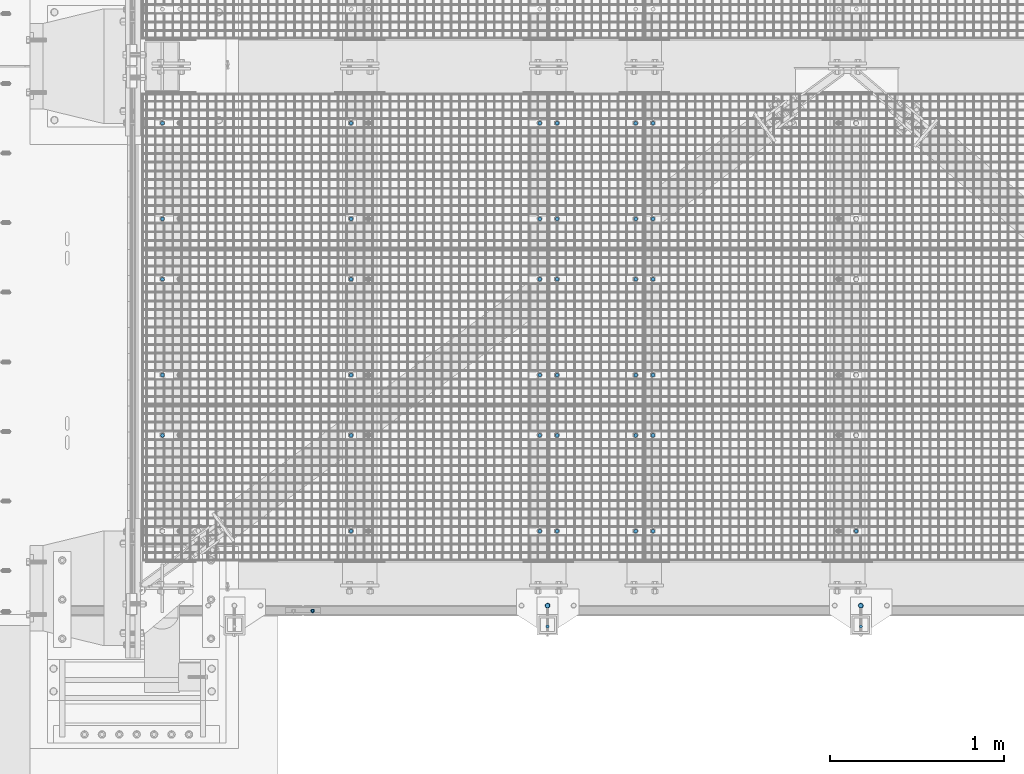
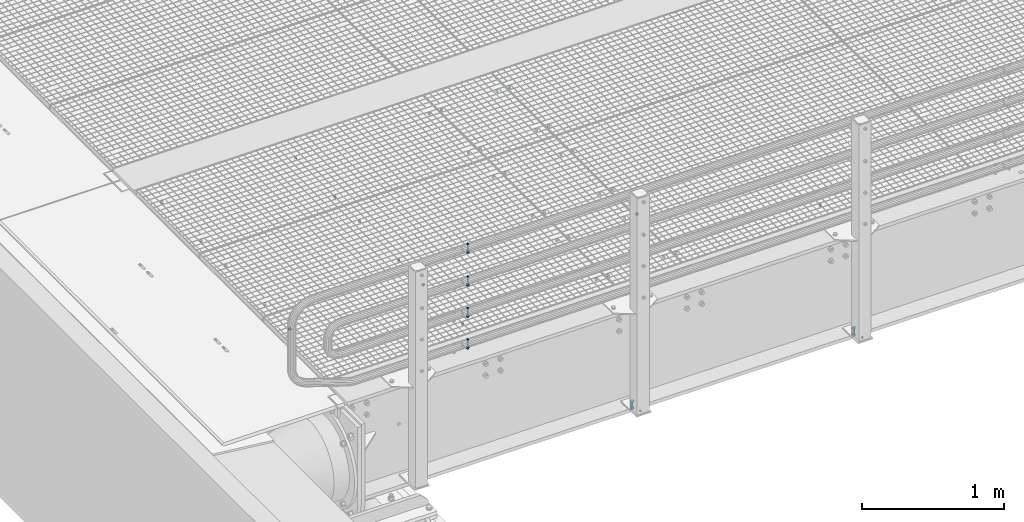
# One storey, part 62 of 1530: 44 mechanical fasteners.
"""IFC2X3 building model written with IfcOpenShell, lengths in millimetres."""

from ifc_helpers import new_model, si_unit, frame, origin_with_axes, place, context, subcontext, project, spatial, faceted_brep, source, transform, mapped, material, type_object, element, save


model = new_model("IFC2X3")

# Units and contexts
model_context = context("Model", 3, precision=1e-05, world=origin_with_axes())
body_context = subcontext(model_context, "Body", "Model", "MODEL_VIEW")
ifc_project = project(units=[si_unit("LENGTHUNIT", "METRE", prefix="MILLI"), si_unit("AREAUNIT", "SQUARE_METRE"), si_unit("VOLUMEUNIT", "CUBIC_METRE"), si_unit("MASSUNIT", "GRAM", prefix="KILO"), si_unit("TIMEUNIT", "SECOND"), si_unit("PLANEANGLEUNIT", "RADIAN"), si_unit("SOLIDANGLEUNIT", "STERADIAN"), si_unit("THERMODYNAMICTEMPERATUREUNIT", "DEGREE_CELSIUS"), si_unit("LUMINOUSINTENSITYUNIT", "LUMEN")], contexts=[model_context])

# Site, building, storey
site_placement = place(None, origin_with_axes())
site = spatial("IfcSite", under=ifc_project, at=site_placement, Name="Brattvåg", CompositionType="ELEMENT")
building_placement = place(site_placement, origin_with_axes())
building = spatial("IfcBuilding", under=site, at=building_placement, Name="Undefined", CompositionType="ELEMENT")
storey_placement = place(building_placement, origin_with_axes())
storey = spatial("IfcBuildingStorey", under=building, at=storey_placement, Name="Undefined", CompositionType="ELEMENT", Elevation=0.0)

# Mechanical fasteners
ifc_material = material(Name="8")
mechanical_fastener_type = type_object("IfcMechanicalFastenerType", Name="Bolt assembly")
shared_shape_1 = source(origin_with_axes(), body_context, "Body", "Brep", [
    faceted_brep([(11.0, -4.99999999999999, 0.0), (9.52627944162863, -4.99999999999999, 5.50000000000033), (5.49999999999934, -4.99999999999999, 9.5262794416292), (-1.13996957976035e-12, -4.99999999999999, 11.0), (-5.50000000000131, -4.99999999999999, 9.52627944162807), (-9.52627944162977, -4.99999999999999, 5.49999999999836), (-11.0, -4.99999999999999, -2.27993915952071e-12), (-9.5262794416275, -4.99999999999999, -5.5000000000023), (-5.49999999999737, -4.99999999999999, -9.52627944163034), (3.40769628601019e-12, -4.99999999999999, -11.0), (5.50000000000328, -4.99999999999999, -9.52627944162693), (9.52627944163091, -4.99999999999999, -5.49999999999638), (9.52627944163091, 10.1, -5.49999999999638), (5.50000000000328, 10.1, -9.52627944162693), (3.40769628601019e-12, 10.1, -11.0), (-5.49999999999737, 10.1, -9.52627944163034), (-9.5262794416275, 10.1, -5.5000000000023), (-11.0, 10.1, -2.27993915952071e-12), (-9.52627944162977, 10.1, 5.49999999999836), (-5.50000000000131, 10.1, 9.52627944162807), (-1.13996957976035e-12, 10.1, 11.0), (5.49999999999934, 10.1, 9.5262794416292), (9.52627944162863, 10.1, 5.50000000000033), (11.0, 10.1, 0.0)], [[[0, 1, 2, 3, 4, 5, 6, 7, 8, 9, 10, 11]], [[12, 13, 14, 15, 16, 17, 18, 19, 20, 21, 22, 23]], [[0, 23, 22, 1]], [[1, 22, 21, 2]], [[2, 21, 20, 3]], [[3, 20, 19, 4]], [[4, 19, 18, 5]], [[5, 18, 17, 6]], [[6, 17, 16, 7]], [[7, 16, 15, 8]], [[8, 15, 14, 9]], [[9, 14, 13, 10]], [[10, 13, 12, 11]], [[11, 12, 23, 0]]]),
])
for number, where, z_axis, x_axis, name in (
    (1, (2856.01522064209, 2121.91931152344, -35.0), (0.0, -1.0, 0.0), (-1.0, 1.99999855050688e-09, 0.0), "Bolt assembly"),
    (2, (2856.01522064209, 2671.99411010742, -35.0), (0.0, -1.0, 0.0), (-1.0, 1.99999855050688e-09, 0.0), "Bolt assembly"),
    (3, (2405.00477935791, 2121.91931152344, -35.0), (0.0, 1.0, 0.0), (1.0, 0.0, 0.0), "Bolt assembly"),
    (4, (2405.00477935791, 2671.99411010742, -35.0), (0.0, 1.0, 0.0), (1.0, 0.0, 0.0), "Bolt assembly"),
    (5, (137.004779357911, 2121.91931152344, -35.0), (0.0, 1.0, 0.0), (1.0, 0.0, 0.0), "Bolt assembly"),
    (6, (137.004779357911, 2671.99411010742, -35.0), (0.0, 1.0, 0.0), (1.0, 0.0, 0.0), "Bolt assembly"),
    (7, (2305.01487731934, 2671.99411010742, -35.0), (0.0, -1.0, 0.0), (-1.0, 1.99999855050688e-09, 0.0), "Bolt assembly"),
    (8, (2305.01487731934, 2121.9204864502, -35.0), (0.0, -1.0, 0.0), (-1.0, 1.99999855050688e-09, 0.0), "Bolt assembly"),
    (9, (1220.93456069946, 2671.99565124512, -35.0), (0.0, -1.0, 0.0), (-1.0, 1.99999855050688e-09, 0.0), "Bolt assembly"),
    (10, (1220.93192543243, 2121.99, -35.0), (0.0, -1.0, 0.0), (-1.0, 1.99999855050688e-09, 0.0), "Bolt assembly"),
    (11, (2856.01522064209, 1224.91931152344, -35.0), (0.0, -1.0, 0.0), (-1.0, 1.99999855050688e-09, 0.0), "Bolt assembly"),
    (12, (2856.01522064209, 1774.99411010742, -35.0), (0.0, -1.0, 0.0), (-1.0, 1.99999855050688e-09, 0.0), "Bolt assembly"),
    (13, (2405.00477935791, 1224.91931152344, -35.0), (0.0, 1.0, 0.0), (1.0, 0.0, 0.0), "Bolt assembly"),
    (14, (2405.00477935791, 1774.99411010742, -35.0), (0.0, 1.0, 0.0), (1.0, 0.0, 0.0), "Bolt assembly"),
    (15, (137.004779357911, 1224.91931152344, -35.0), (0.0, 1.0, 0.0), (1.0, 0.0, 0.0), "Bolt assembly"),
    (16, (137.004779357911, 1774.99411010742, -35.0), (0.0, 1.0, 0.0), (1.0, 0.0, 0.0), "Bolt assembly"),
    (17, (2305.01487731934, 1774.99411010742, -35.0), (0.0, -1.0, 0.0), (-1.0, 1.99999855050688e-09, 0.0), "Bolt assembly"),
    (18, (2305.01487731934, 1224.9204864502, -35.0), (0.0, -1.0, 0.0), (-1.0, 1.99999855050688e-09, 0.0), "Bolt assembly"),
    (19, (1220.93456069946, 1774.99565124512, -35.0), (0.0, -1.0, 0.0), (-1.0, 1.99999855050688e-09, 0.0), "Bolt assembly"),
    (20, (1220.93192543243, 1224.99, -35.0), (0.0, -1.0, 0.0), (-1.0, 1.99999855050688e-09, 0.0), "Bolt assembly"),
    (21, (2856.01522064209, 327.919311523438, -35.0), (0.0, -1.0, 0.0), (-1.0, 1.99999855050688e-09, 0.0), "Bolt assembly"),
    (22, (2856.01522064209, 877.994110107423, -35.0), (0.0, -1.0, 0.0), (-1.0, 1.99999855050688e-09, 0.0), "Bolt assembly"),
    (23, (2405.00477935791, 327.919311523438, -35.0), (0.0, 1.0, 0.0), (1.0, 0.0, 0.0), "Bolt assembly"),
    (24, (2405.00477935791, 877.994110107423, -35.0), (0.0, 1.0, 0.0), (1.0, 0.0, 0.0), "Bolt assembly"),
    (25, (137.004779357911, 877.994110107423, -35.0), (0.0, 1.0, 0.0), (1.0, 0.0, 0.0), "Bolt assembly"),
    (26, (2305.01487731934, 877.994110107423, -35.0), (0.0, -1.0, 0.0), (-1.0, 1.99999855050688e-09, 0.0), "Bolt assembly"),
    (27, (2305.01487731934, 327.920486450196, -35.0), (0.0, -1.0, 0.0), (-1.0, 1.99999855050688e-09, 0.0), "Bolt assembly"),
    (28, (1220.93456069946, 877.995651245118, -35.0), (0.0, -1.0, 0.0), (-1.0, 1.99999855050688e-09, 0.0), "Bolt assembly"),
    (29, (1220.93192543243, 327.99, -35.0), (0.0, -1.0, 0.0), (-1.0, 1.99999855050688e-09, 0.0), "Bolt assembly"),
    (30, (2956.00477935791, 2121.98931152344, -35.0), (0.0, 1.0, 0.0), (1.0, 0.0, 0.0), "Bolt assembly"),
    (31, (2956.00477935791, 2671.99411010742, -35.0), (0.0, 1.0, 0.0), (1.0, 0.0, 0.0), "Bolt assembly"),
    (32, (2956.00477935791, 1224.98931152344, -35.0), (0.0, 1.0, 0.0), (1.0, 0.0, 0.0), "Bolt assembly"),
    (33, (2956.00477935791, 1774.99411010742, -35.0), (0.0, 1.0, 0.0), (1.0, 0.0, 0.0), "Bolt assembly"),
    (34, (2956.00477935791, 327.989311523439, -35.0), (0.0, 1.0, 0.0), (1.0, 0.0, 0.0), "Bolt assembly"),
    (35, (2956.00477935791, 877.994110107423, -35.0), (0.0, 1.0, 0.0), (1.0, 0.0, 0.0), "Bolt assembly"),
    (36, (4124.01192543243, 327.99, -35.0), (0.0, -1.0, 0.0), (-1.0, 1.99999855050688e-09, 0.0), "Bolt assembly"),
):
    element("IfcMechanicalFastener", number, at=place(storey_placement, frame(where, z_axis=z_axis, x_axis=x_axis)), inside=storey, type_object=mechanical_fastener_type, material=ifc_material, Name=name, NominalDiameter=20.0, NominalLength=15.0, context=body_context, shape_type="MappedRepresentation", body=[
        mapped(shared_shape_1, transform((0.0, 0.0, 0.0))),
    ])
shared_shape_2 = source(origin_with_axes(), body_context, "Body", "Brep", [
    faceted_brep([(9.0, -0.000108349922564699, 0.0), (7.79422863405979, -0.000108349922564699, 4.50000000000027), (4.49999999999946, -0.000108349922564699, 7.79422863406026), (-9.3270238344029e-13, -0.000108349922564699, 9.0), (-4.50000000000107, -0.000108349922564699, 7.79422863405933), (-7.79422863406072, -0.000108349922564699, 4.49999999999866), (-9.0, -0.000108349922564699, -1.86540476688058e-12), (-7.79422863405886, -0.000108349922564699, -4.50000000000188), (-4.49999999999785, -0.000108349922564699, -7.79422863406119), (2.78811514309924e-12, -0.000108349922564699, -9.0), (4.50000000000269, -0.000108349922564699, -7.7942286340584), (7.79422863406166, -0.000108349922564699, -4.49999999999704), (7.79422863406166, 10.0998916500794, -4.49999999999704), (4.50000000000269, 10.0998916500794, -7.7942286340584), (2.78811514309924e-12, 10.0998916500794, -9.0), (-4.49999999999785, 10.0998916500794, -7.79422863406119), (-7.79422863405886, 10.0998916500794, -4.50000000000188), (-9.0, 10.0998916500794, -1.86540476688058e-12), (-7.79422863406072, 10.0998916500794, 4.49999999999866), (-4.50000000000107, 10.0998916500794, 7.79422863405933), (-9.3270238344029e-13, 10.0998916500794, 9.0), (4.49999999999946, 10.0998916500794, 7.79422863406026), (7.79422863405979, 10.0998916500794, 4.50000000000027), (9.0, 10.0998916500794, 0.0)], [[[0, 1, 2, 3, 4, 5, 6, 7, 8, 9, 10, 11]], [[12, 13, 14, 15, 16, 17, 18, 19, 20, 21, 22, 23]], [[0, 23, 22, 1]], [[1, 22, 21, 2]], [[2, 21, 20, 3]], [[3, 20, 19, 4]], [[4, 19, 18, 5]], [[5, 18, 17, 6]], [[6, 17, 16, 7]], [[7, 16, 15, 8]], [[8, 15, 14, 9]], [[9, 14, 13, 10]], [[10, 13, 12, 11]], [[11, 12, 23, 0]]]),
])
for number, where, z_axis, x_axis, name in (
    (37, (4150.00016021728, -219.999950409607, -845.000278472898), (-1.0, 1.99999855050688e-09, 0.0), (0.0, 0.999999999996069, 2.80400000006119e-06), "Bolt assembly"),
    (38, (2350.00016021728, -219.999950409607, -845.000278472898), (-1.0, 1.99999855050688e-09, 0.0), (0.0, 0.999999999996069, 2.80400000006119e-06), "Bolt assembly"),
):
    element("IfcMechanicalFastener", number, at=place(storey_placement, frame(where, z_axis=z_axis, x_axis=x_axis)), inside=storey, type_object=mechanical_fastener_type, material=ifc_material, Name=name, NominalDiameter=16.0, NominalLength=10.0001087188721, context=body_context, shape_type="MappedRepresentation", body=[
        mapped(shared_shape_2, transform((0.0, 0.0, 0.0))),
    ])
shared_shape_3 = source(origin_with_axes(), body_context, "Body", "Brep", [
    faceted_brep([(6.49435320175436, -7.50000000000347, 0.0), (4.59220118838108, -7.50000000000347, 4.59220118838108), (3.97664443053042e-16, -7.50000000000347, 6.49435320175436), (-4.59220118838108, -7.50000000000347, 4.59220118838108), (-6.49435320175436, -7.50000000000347, 7.95328886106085e-16), (-4.59220118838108, -7.50000000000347, -4.59220118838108), (-1.19299332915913e-15, -7.50000000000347, -6.49435320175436), (4.59220118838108, -7.50000000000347, -4.59220118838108), (7.34846922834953, -3.46744855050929e-12, -7.34846922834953), (-1.90903542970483e-15, -3.46744855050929e-12, -10.3923048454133), (-7.34846922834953, -3.46744855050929e-12, -7.34846922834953), (-10.3923048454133, 3.46808519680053e-07, 1.27269028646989e-15), (-7.34846922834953, -3.46744855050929e-12, 7.34846922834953), (6.36345143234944e-16, -3.46744855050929e-12, 10.3923048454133), (7.34846922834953, -3.46744855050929e-12, 7.34846922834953), (10.3923048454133, 3.46808519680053e-07, 0.0), (6.0, 3.46808519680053e-07, 0.0), (5.19615242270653, 3.46808519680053e-07, 3.00000000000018), (2.99999999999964, 3.46808519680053e-07, 5.19615242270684), (-6.21801588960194e-13, 3.46808519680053e-07, 6.0), (-3.00000000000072, 3.46808519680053e-07, 5.19615242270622), (-5.19615242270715, 3.46808519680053e-07, 2.9999999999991), (-6.0, 3.46808519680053e-07, -1.24360317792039e-12), (-5.19615242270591, 3.46808519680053e-07, -3.00000000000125), (-2.99999999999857, 3.46808519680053e-07, -5.19615242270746), (1.85874342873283e-12, 3.46808519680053e-07, -6.0), (3.00000000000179, 3.46808519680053e-07, -5.1961524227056), (5.19615242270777, 3.46808519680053e-07, -2.99999999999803), (5.19615242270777, 79.9999999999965, -2.99999999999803), (3.00000000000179, 79.9999999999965, -5.1961524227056), (1.85874342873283e-12, 79.9999999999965, -6.0), (-2.99999999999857, 79.9999999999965, -5.19615242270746), (-5.19615242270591, 79.9999999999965, -3.00000000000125), (-6.0, 79.9999999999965, -1.24360317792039e-12), (-5.19615242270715, 79.9999999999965, 2.9999999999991), (-3.00000000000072, 79.9999999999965, 5.19615242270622), (-6.21801588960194e-13, 79.9999999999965, 6.0), (2.99999999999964, 79.9999999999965, 5.19615242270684), (5.19615242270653, 79.9999999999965, 3.00000000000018), (6.0, 79.9999999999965, 0.0), (12.0, 60.2988956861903, 0.0), (10.3923048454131, 60.2988956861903, 6.00000000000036), (5.99999999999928, 60.2988956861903, 10.3923048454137), (-1.24360317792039e-12, 60.2988956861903, 12.0), (-6.00000000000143, 60.2988956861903, 10.3923048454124), (-10.3923048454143, 60.2988956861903, 5.99999999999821), (-12.0, 60.2988956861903, -2.48720635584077e-12), (-10.3923048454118, 60.2988956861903, -6.00000000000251), (-5.99999999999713, 60.2988956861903, -10.3923048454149), (3.71748685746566e-12, 60.2988956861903, -12.0), (6.00000000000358, 60.2988956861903, -10.3923048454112), (10.3923048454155, 60.2988956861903, -5.99999999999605), (10.3923048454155, 62.7988956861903, -5.99999999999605), (6.00000000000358, 62.7988956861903, -10.3923048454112), (3.71748685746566e-12, 62.7988956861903, -12.0), (-5.99999999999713, 62.7988956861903, -10.3923048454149), (-10.3923048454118, 62.7988956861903, -6.00000000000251), (-12.0, 62.7988956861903, -2.48720635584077e-12), (-10.3923048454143, 62.7988956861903, 5.99999999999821), (-6.00000000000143, 62.7988956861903, 10.3923048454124), (-1.24360317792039e-12, 62.7988956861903, 12.0), (5.99999999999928, 62.7988956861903, 10.3923048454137), (10.3923048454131, 62.7988956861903, 6.00000000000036), (12.0, 62.7988956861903, 0.0), (10.9696551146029, 62.7988956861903, 0.0), (5.48482755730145, 62.7988956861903, 9.5), (-5.48482755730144, 62.7988956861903, 9.5), (-10.9696551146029, 62.7988956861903, 1.34339530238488e-15), (-5.48482755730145, 62.7988956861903, -9.5), (5.48482755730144, 62.7988956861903, -9.5), (5.48482755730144, 73.5988958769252, -9.5), (-5.48482755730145, 73.5988958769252, -9.5), (-10.9696551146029, 73.5988958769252, 1.34339530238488e-15), (-5.48482755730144, 73.5988958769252, 9.5), (5.48482755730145, 73.5988958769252, 9.5), (10.9696551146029, 73.5988958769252, 0.0)], [[[0, 1, 2, 3, 4, 5, 6, 7]], [[8, 9, 10, 11, 12, 13, 14, 15]], [[0, 15, 14, 1]], [[1, 14, 13, 2]], [[2, 13, 12, 3]], [[3, 12, 11, 4]], [[4, 11, 10, 5]], [[5, 10, 9, 6]], [[6, 9, 8, 7]], [[7, 8, 15, 0]], [[16, 17, 18, 19, 20, 21, 22, 23, 24, 25, 26, 27]], [[28, 29, 30, 31, 32, 33, 34, 35, 36, 37, 38, 39]], [[16, 39, 38, 17]], [[17, 38, 37, 18]], [[18, 37, 36, 19]], [[19, 36, 35, 20]], [[20, 35, 34, 21]], [[21, 34, 33, 22]], [[22, 33, 32, 23]], [[23, 32, 31, 24]], [[24, 31, 30, 25]], [[25, 30, 29, 26]], [[26, 29, 28, 27]], [[27, 28, 39, 16]], [[40, 41, 42, 43, 44, 45, 46, 47, 48, 49, 50, 51]], [[52, 53, 54, 55, 56, 57, 58, 59, 60, 61, 62, 63]], [[40, 63, 62, 41]], [[41, 62, 61, 42]], [[42, 61, 60, 43]], [[43, 60, 59, 44]], [[44, 59, 58, 45]], [[45, 58, 57, 46]], [[46, 57, 56, 47]], [[47, 56, 55, 48]], [[48, 55, 54, 49]], [[49, 54, 53, 50]], [[50, 53, 52, 51]], [[51, 52, 63, 40]], [[64, 65, 66, 67, 68, 69]], [[70, 71, 72, 73, 74, 75]], [[64, 75, 74, 65]], [[65, 74, 73, 66]], [[66, 73, 72, 67]], [[67, 72, 71, 68]], [[68, 71, 70, 69]], [[69, 70, 75, 64]]]),
    faceted_brep([(6.5, 0.100000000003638, 0.0), (5.62916512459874, 0.100000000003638, 3.25000000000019), (3.24999999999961, 0.100000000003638, 5.62916512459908), (-6.7361838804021e-13, 0.100000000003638, 6.5), (-3.25000000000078, 0.100000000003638, 5.6291651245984), (-5.62916512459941, 0.100000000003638, 3.24999999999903), (-6.5, 0.100000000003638, -1.34723677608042e-12), (-5.62916512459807, 0.100000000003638, -3.25000000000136), (-3.24999999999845, 0.100000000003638, -5.62916512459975), (2.01363871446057e-12, 0.100000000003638, -6.5), (3.25000000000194, 0.100000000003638, -5.62916512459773), (5.62916512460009, 0.100000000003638, -3.24999999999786), (5.62916512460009, 60.3988956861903, -3.24999999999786), (3.25000000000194, 60.3988956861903, -5.62916512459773), (2.01363871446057e-12, 60.3988956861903, -6.5), (-3.24999999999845, 60.3988956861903, -5.62916512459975), (-5.62916512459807, 60.3988956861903, -3.25000000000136), (-6.5, 60.3988956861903, -1.34723677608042e-12), (-5.62916512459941, 60.3988956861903, 3.24999999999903), (-3.25000000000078, 60.3988956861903, 5.6291651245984), (-6.7361838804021e-13, 60.3988956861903, 6.5), (3.24999999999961, 60.3988956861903, 5.62916512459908), (5.62916512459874, 60.3988956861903, 3.25000000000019), (6.5, 60.3988956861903, 0.0), (6.5, 4.25026510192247, 0.0), (5.62916512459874, 4.25026510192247, 3.25000000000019), (3.24999999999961, 4.25026510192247, 5.62916512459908), (-6.7361838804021e-13, 4.25026510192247, 6.5), (-3.25000000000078, 4.25026510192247, 5.6291651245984), (-5.62916512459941, 4.25026510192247, 3.24999999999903), (-6.5, 4.25026510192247, -1.34723677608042e-12), (-5.62916512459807, 4.25026510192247, -3.25000000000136), (-3.24999999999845, 4.25026510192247, -5.62916512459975), (2.01363871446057e-12, 4.25026510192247, -6.5), (3.25000000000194, 4.25026510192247, -5.62916512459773), (5.62916512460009, 4.25026510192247, -3.24999999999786), (5.62916512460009, 55.3491717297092, -3.24999999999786), (3.25000000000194, 55.3491717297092, -5.62916512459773), (2.01363871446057e-12, 55.3491717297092, -6.5), (-3.24999999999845, 55.3491717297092, -5.62916512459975), (-5.62916512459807, 55.3491717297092, -3.25000000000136), (-6.5, 55.3491717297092, -1.34723677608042e-12), (-5.62916512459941, 55.3491717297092, 3.24999999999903), (-3.25000000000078, 55.3491717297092, 5.6291651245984), (-6.7361838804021e-13, 55.3491717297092, 6.5), (3.24999999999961, 55.3491717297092, 5.62916512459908), (5.62916512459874, 55.3491717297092, 3.25000000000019), (6.5, 55.3491717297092, 0.0)], [[[0, 1, 2, 3, 4, 5, 6, 7, 8, 9, 10, 11]], [[12, 13, 14, 15, 16, 17, 18, 19, 20, 21, 22, 23]], [[0, 23, 22, 1]], [[1, 22, 21, 2]], [[2, 21, 20, 3]], [[3, 20, 19, 4]], [[4, 19, 18, 5]], [[5, 18, 17, 6]], [[6, 17, 16, 7]], [[7, 16, 15, 8]], [[8, 15, 14, 9]], [[9, 14, 13, 10]], [[10, 13, 12, 11]], [[11, 12, 23, 0]], [[24, 25, 26, 27, 28, 29, 30, 31, 32, 33, 34, 35]], [[36, 37, 38, 39, 40, 41, 42, 43, 44, 45, 46, 47]], [[24, 47, 46, 25]], [[25, 46, 45, 26]], [[26, 45, 44, 27]], [[27, 44, 43, 28]], [[28, 43, 42, 29]], [[29, 42, 41, 30]], [[30, 41, 40, 31]], [[31, 40, 39, 32]], [[32, 39, 38, 33]], [[33, 38, 37, 34]], [[34, 37, 36, 35]], [[35, 36, 47, 24]]]),
])
for number, where, z_axis, x_axis, name in (
    (39, (999.999862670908, -129.849880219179, 179.7000579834), (-1.0, 1.99999855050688e-09, 0.0), (0.0, 0.999999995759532, -9.2091999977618e-05), "Bolt assembly"),
    (40, (999.999862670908, -129.849880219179, 449.7000579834), (-1.0, 1.99999855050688e-09, 0.0), (0.0, 0.999999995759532, -9.2091999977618e-05), "Bolt assembly"),
    (41, (999.999862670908, -129.849880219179, 719.7000579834), (-1.0, 1.99999855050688e-09, 0.0), (0.0, 0.999999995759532, -9.2091999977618e-05), "Bolt assembly"),
    (42, (999.999862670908, -129.849880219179, 999.7000579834), (-1.0, 1.99999855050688e-09, 0.0), (0.0, 0.999999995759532, -9.2091999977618e-05), "Bolt assembly"),
):
    element("IfcMechanicalFastener", number, at=place(storey_placement, frame(where, z_axis=z_axis, x_axis=x_axis)), inside=storey, type_object=mechanical_fastener_type, material=ifc_material, Name=name, NominalDiameter=12.0, NominalLength=80.0, context=body_context, shape_type="MappedRepresentation", body=[
        mapped(shared_shape_3, transform((0.0, 0.0, 0.0))),
    ])
shared_shape_4 = source(origin_with_axes(), body_context, "Body", "Brep", [
    faceted_brep([(13.856406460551, -12.9998916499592, 0.0), (6.92820323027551, -12.9998916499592, 12.0), (-6.92820323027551, -12.9998916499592, 12.0), (-13.856406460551, -12.9998916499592, 1.69692038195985e-15), (-6.92820323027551, -12.9998916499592, -12.0), (6.9282032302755, -12.9998916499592, -12.0), (6.9282032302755, -2.99989164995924, -12.0), (-6.92820323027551, -2.99989164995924, -12.0), (-13.856406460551, -2.99989164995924, 1.69692038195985e-15), (-6.92820323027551, -2.99989164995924, 12.0), (6.92820323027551, -2.99989164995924, 12.0), (13.856406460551, -2.99989164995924, 0.0), (8.0, -2.99989164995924, 0.0), (6.92820323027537, -2.99989164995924, 4.00000000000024), (3.99999999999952, -2.99989164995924, 6.92820323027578), (-8.29068785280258e-13, -2.99989164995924, 8.0), (-4.00000000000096, -2.99989164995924, 6.92820323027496), (-6.9282032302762, -2.99989164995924, 3.99999999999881), (-8.0, -2.99989164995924, -1.65813757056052e-12), (-6.92820323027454, -2.99989164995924, -4.00000000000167), (-3.99999999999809, -2.99989164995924, -6.92820323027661), (2.47832457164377e-12, -2.99989164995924, -8.0), (4.00000000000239, -2.99989164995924, -6.92820323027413), (6.92820323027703, -2.99989164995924, -3.99999999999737), (6.92820323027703, 67.0001083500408, -3.99999999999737), (4.00000000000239, 67.0001083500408, -6.92820323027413), (2.47832457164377e-12, 67.0001083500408, -8.0), (-3.99999999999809, 67.0001083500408, -6.92820323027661), (-6.92820323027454, 67.0001083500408, -4.00000000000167), (-8.0, 67.0001083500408, -1.65813757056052e-12), (-6.9282032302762, 67.0001083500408, 3.99999999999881), (-4.00000000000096, 67.0001083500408, 6.92820323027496), (-8.29068785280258e-13, 67.0001083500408, 8.0), (3.99999999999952, 67.0001083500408, 6.92820323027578), (6.92820323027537, 67.0001083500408, 4.00000000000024), (8.0, 67.0001083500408, 0.0), (15.0, -2.99989164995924, 0.0), (12.9903810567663, -2.99989164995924, 7.50000000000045), (7.4999999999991, -2.99989164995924, 12.9903810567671), (-1.55450397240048e-12, -2.99989164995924, 15.0), (-7.50000000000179, -2.99989164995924, 12.9903810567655), (-12.9903810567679, -2.99989164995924, 7.49999999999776), (-15.0, -2.99989164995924, -3.10900794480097e-12), (-12.9903810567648, -2.99989164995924, -7.50000000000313), (-7.49999999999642, -2.99989164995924, -12.9903810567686), (4.64685857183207e-12, -2.99989164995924, -15.0), (7.50000000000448, -2.99989164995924, -12.990381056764), (12.9903810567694, -2.99989164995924, -7.49999999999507), (12.9903810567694, 0.000108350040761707, -7.49999999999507), (7.50000000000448, 0.000108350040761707, -12.990381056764), (4.64685857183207e-12, 0.000108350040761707, -15.0), (-7.49999999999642, 0.000108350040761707, -12.9903810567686), (-12.9903810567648, 0.000108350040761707, -7.50000000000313), (-15.0, 0.000108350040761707, -3.10900794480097e-12), (-12.9903810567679, 0.000108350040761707, 7.49999999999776), (-7.50000000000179, 0.000108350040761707, 12.9903810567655), (-1.55450397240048e-12, 0.000108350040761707, 15.0), (7.4999999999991, 0.000108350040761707, 12.9903810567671), (12.9903810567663, 0.000108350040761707, 7.50000000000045), (15.0, 0.000108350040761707, 0.0), (15.0, 45.0001982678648, 0.0), (12.9903810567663, 45.0001982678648, 7.50000000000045), (7.4999999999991, 45.0001982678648, 12.9903810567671), (-1.55450397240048e-12, 45.0001982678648, 15.0), (-7.50000000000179, 45.0001982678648, 12.9903810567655), (-12.9903810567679, 45.0001982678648, 7.49999999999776), (-15.0, 45.0001982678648, -3.10900794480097e-12), (-12.9903810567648, 45.0001982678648, -7.50000000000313), (-7.49999999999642, 45.0001982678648, -12.9903810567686), (4.64685857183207e-12, 45.0001982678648, -15.0), (7.50000000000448, 45.0001982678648, -12.990381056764), (12.9903810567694, 45.0001982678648, -7.49999999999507), (12.9903810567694, 48.0001982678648, -7.49999999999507), (7.50000000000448, 48.0001982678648, -12.990381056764), (4.64685857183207e-12, 48.0001982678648, -15.0), (-7.49999999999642, 48.0001982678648, -12.9903810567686), (-12.9903810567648, 48.0001982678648, -7.50000000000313), (-15.0, 48.0001982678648, -3.10900794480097e-12), (-12.9903810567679, 48.0001982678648, 7.49999999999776), (-7.50000000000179, 48.0001982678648, 12.9903810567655), (-1.55450397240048e-12, 48.0001982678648, 15.0), (7.4999999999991, 48.0001982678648, 12.9903810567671), (12.9903810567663, 48.0001982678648, 7.50000000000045), (15.0, 48.0001982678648, 0.0), (13.856406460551, 48.0001982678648, 0.0), (6.92820323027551, 48.0001982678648, 12.0), (-6.92820323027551, 48.0001982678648, 12.0), (-13.856406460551, 48.0001982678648, 1.69692038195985e-15), (-6.92820323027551, 48.0001982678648, -12.0), (6.9282032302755, 48.0001982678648, -12.0), (6.9282032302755, 62.8001984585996, -12.0), (-6.92820323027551, 62.8001984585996, -12.0), (-13.856406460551, 62.8001984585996, 1.69692038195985e-15), (-6.92820323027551, 62.8001984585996, 12.0), (6.92820323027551, 62.8001984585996, 12.0), (13.856406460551, 62.8001984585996, 0.0)], [[[0, 1, 2, 3, 4, 5]], [[6, 7, 8, 9, 10, 11]], [[0, 11, 10, 1]], [[1, 10, 9, 2]], [[2, 9, 8, 3]], [[3, 8, 7, 4]], [[4, 7, 6, 5]], [[5, 6, 11, 0]], [[12, 13, 14, 15, 16, 17, 18, 19, 20, 21, 22, 23]], [[24, 25, 26, 27, 28, 29, 30, 31, 32, 33, 34, 35]], [[12, 35, 34, 13]], [[13, 34, 33, 14]], [[14, 33, 32, 15]], [[15, 32, 31, 16]], [[16, 31, 30, 17]], [[17, 30, 29, 18]], [[18, 29, 28, 19]], [[19, 28, 27, 20]], [[20, 27, 26, 21]], [[21, 26, 25, 22]], [[22, 25, 24, 23]], [[23, 24, 35, 12]], [[36, 37, 38, 39, 40, 41, 42, 43, 44, 45, 46, 47]], [[48, 49, 50, 51, 52, 53, 54, 55, 56, 57, 58, 59]], [[36, 59, 58, 37]], [[37, 58, 57, 38]], [[38, 57, 56, 39]], [[39, 56, 55, 40]], [[40, 55, 54, 41]], [[41, 54, 53, 42]], [[42, 53, 52, 43]], [[43, 52, 51, 44]], [[44, 51, 50, 45]], [[45, 50, 49, 46]], [[46, 49, 48, 47]], [[47, 48, 59, 36]], [[60, 61, 62, 63, 64, 65, 66, 67, 68, 69, 70, 71]], [[72, 73, 74, 75, 76, 77, 78, 79, 80, 81, 82, 83]], [[60, 83, 82, 61]], [[61, 82, 81, 62]], [[62, 81, 80, 63]], [[63, 80, 79, 64]], [[64, 79, 78, 65]], [[65, 78, 77, 66]], [[66, 77, 76, 67]], [[67, 76, 75, 68]], [[68, 75, 74, 69]], [[69, 74, 73, 70]], [[70, 73, 72, 71]], [[71, 72, 83, 60]], [[84, 85, 86, 87, 88, 89]], [[90, 91, 92, 93, 94, 95]], [[84, 95, 94, 85]], [[85, 94, 93, 86]], [[86, 93, 92, 87]], [[87, 92, 91, 88]], [[88, 91, 90, 89]], [[89, 90, 95, 84]]]),
    faceted_brep([(9.0, 0.100108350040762, 0.0), (7.79422863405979, 0.100108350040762, 4.50000000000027), (4.49999999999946, 0.100108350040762, 7.79422863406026), (-9.3270238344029e-13, 0.100108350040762, 9.0), (-4.50000000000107, 0.100108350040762, 7.79422863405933), (-7.79422863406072, 0.100108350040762, 4.49999999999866), (-9.0, 0.100108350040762, -1.86540476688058e-12), (-7.79422863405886, 0.100108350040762, -4.50000000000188), (-4.49999999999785, 0.100108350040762, -7.79422863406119), (2.78811514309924e-12, 0.100108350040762, -9.0), (4.50000000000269, 0.100108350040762, -7.7942286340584), (7.79422863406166, 0.100108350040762, -4.49999999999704), (7.79422863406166, 10.10010835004, -4.49999999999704), (4.50000000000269, 10.10010835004, -7.7942286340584), (2.78811514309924e-12, 10.10010835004, -9.0), (-4.49999999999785, 10.10010835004, -7.79422863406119), (-7.79422863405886, 10.10010835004, -4.50000000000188), (-9.0, 10.10010835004, -1.86540476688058e-12), (-7.79422863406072, 10.10010835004, 4.49999999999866), (-4.50000000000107, 10.10010835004, 7.79422863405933), (-9.3270238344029e-13, 10.10010835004, 9.0), (4.49999999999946, 10.10010835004, 7.79422863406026), (7.79422863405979, 10.10010835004, 4.50000000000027), (9.0, 10.10010835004, 0.0), (9.0, 10.0002383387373, 0.0), (7.79422863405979, 10.0002383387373, 4.50000000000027), (4.49999999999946, 10.0002383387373, 7.79422863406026), (-9.3270238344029e-13, 10.0002383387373, 9.0), (-4.50000000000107, 10.0002383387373, 7.79422863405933), (-7.79422863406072, 10.0002383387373, 4.49999999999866), (-9.0, 10.0002383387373, -1.86540476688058e-12), (-7.79422863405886, 10.0002383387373, -4.50000000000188), (-4.49999999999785, 10.0002383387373, -7.79422863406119), (2.78811514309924e-12, 10.0002383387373, -9.0), (4.50000000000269, 10.0002383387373, -7.7942286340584), (7.79422863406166, 10.0002383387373, -4.49999999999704), (7.79422863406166, 15.000238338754, -4.49999999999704), (4.50000000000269, 15.000238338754, -7.7942286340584), (2.78811514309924e-12, 15.000238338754, -9.0), (-4.49999999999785, 15.000238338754, -7.79422863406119), (-7.79422863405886, 15.000238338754, -4.50000000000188), (-9.0, 15.000238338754, -1.86540476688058e-12), (-7.79422863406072, 15.000238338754, 4.49999999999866), (-4.50000000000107, 15.000238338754, 7.79422863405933), (-9.3270238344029e-13, 15.000238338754, 9.0), (4.49999999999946, 15.000238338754, 7.79422863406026), (7.79422863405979, 15.000238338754, 4.50000000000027), (9.0, 15.000238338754, 0.0), (9.0, 14.9001982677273, 0.0), (7.79422863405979, 14.9001982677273, 4.50000000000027), (4.49999999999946, 14.9001982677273, 7.79422863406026), (-9.3270238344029e-13, 14.9001982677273, 9.0), (-4.50000000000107, 14.9001982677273, 7.79422863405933), (-7.79422863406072, 14.9001982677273, 4.49999999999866), (-9.0, 14.9001982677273, -1.86540476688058e-12), (-7.79422863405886, 14.9001982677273, -4.50000000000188), (-4.49999999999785, 14.9001982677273, -7.79422863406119), (2.78811514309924e-12, 14.9001982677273, -9.0), (4.50000000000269, 14.9001982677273, -7.7942286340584), (7.79422863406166, 14.9001982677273, -4.49999999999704), (7.79422863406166, 45.0001982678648, -4.49999999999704), (4.50000000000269, 45.0001982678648, -7.7942286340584), (2.78811514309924e-12, 45.0001982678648, -9.0), (-4.49999999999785, 45.0001982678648, -7.79422863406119), (-7.79422863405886, 45.0001982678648, -4.50000000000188), (-9.0, 45.0001982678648, -1.86540476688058e-12), (-7.79422863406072, 45.0001982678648, 4.49999999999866), (-4.50000000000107, 45.0001982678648, 7.79422863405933), (-9.3270238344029e-13, 45.0001982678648, 9.0), (4.49999999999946, 45.0001982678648, 7.79422863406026), (7.79422863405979, 45.0001982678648, 4.50000000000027), (9.0, 45.0001982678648, 0.0)], [[[0, 1, 2, 3, 4, 5, 6, 7, 8, 9, 10, 11]], [[12, 13, 14, 15, 16, 17, 18, 19, 20, 21, 22, 23]], [[0, 23, 22, 1]], [[1, 22, 21, 2]], [[2, 21, 20, 3]], [[3, 20, 19, 4]], [[4, 19, 18, 5]], [[5, 18, 17, 6]], [[6, 17, 16, 7]], [[7, 16, 15, 8]], [[8, 15, 14, 9]], [[9, 14, 13, 10]], [[10, 13, 12, 11]], [[11, 12, 23, 0]], [[24, 25, 26, 27, 28, 29, 30, 31, 32, 33, 34, 35]], [[36, 37, 38, 39, 40, 41, 42, 43, 44, 45, 46, 47]], [[24, 47, 46, 25]], [[25, 46, 45, 26]], [[26, 45, 44, 27]], [[27, 44, 43, 28]], [[28, 43, 42, 29]], [[29, 42, 41, 30]], [[30, 41, 40, 31]], [[31, 40, 39, 32]], [[32, 39, 38, 33]], [[33, 38, 37, 34]], [[34, 37, 36, 35]], [[35, 36, 47, 24]], [[48, 49, 50, 51, 52, 53, 54, 55, 56, 57, 58, 59]], [[60, 61, 62, 63, 64, 65, 66, 67, 68, 69, 70, 71]], [[48, 71, 70, 49]], [[49, 70, 69, 50]], [[50, 69, 68, 51]], [[51, 68, 67, 52]], [[52, 67, 66, 53]], [[53, 66, 65, 54]], [[54, 65, 64, 55]], [[55, 64, 63, 56]], [[56, 63, 62, 57]], [[57, 62, 61, 58]], [[58, 61, 60, 59]], [[59, 60, 71, 48]]]),
])
for number, where, z_axis, x_axis, name in (
    (43, (2350.00016021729, -99.9996833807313, -844.999801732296), (1.0, 0.0, 0.0), (0.0, -0.999999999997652, -2.16700000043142e-06), "Bolt assembly"),
    (44, (4150.00016021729, -99.9996833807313, -844.999801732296), (1.0, 0.0, 0.0), (0.0, -0.999999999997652, -2.16700000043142e-06), "Bolt assembly"),
):
    element("IfcMechanicalFastener", number, at=place(storey_placement, frame(where, z_axis=z_axis, x_axis=x_axis)), inside=storey, type_object=mechanical_fastener_type, material=ifc_material, Name=name, NominalDiameter=16.0, NominalLength=70.0, context=body_context, shape_type="MappedRepresentation", body=[
        mapped(shared_shape_4, transform((0.0, 0.0, 0.0))),
    ])

save(model, "model.ifc")
